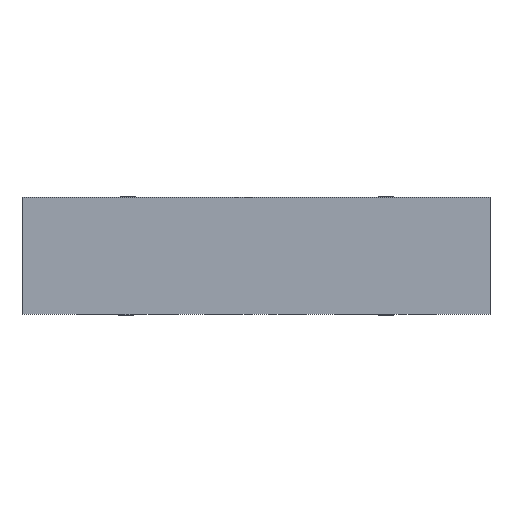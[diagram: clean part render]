
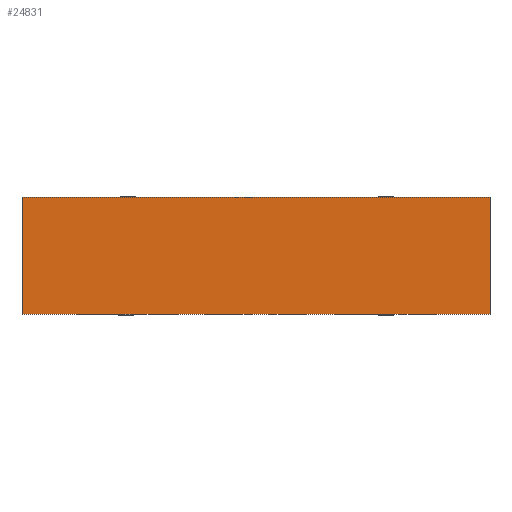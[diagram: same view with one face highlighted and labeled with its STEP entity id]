
A CAD part, left-side view. The second image highlights one B-rep face of the part: STEP entity #24831.
In plain terms, the highlighted planar face has unit normal (-1, 0, 0).
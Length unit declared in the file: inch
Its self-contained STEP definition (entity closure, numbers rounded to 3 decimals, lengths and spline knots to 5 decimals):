
#1872=FACE_OUTER_BOUND('',#3384,.T.);
#3384=EDGE_LOOP('',(#22416,#22417,#22418,#22419));
#4344=LINE('',#36316,#7126);
#5447=LINE('',#42344,#8229);
#6168=LINE('',#43872,#8950);
#6169=LINE('',#43873,#8951);
#7126=VECTOR('',#27373,4.);
#8229=VECTOR('',#29096,4.);
#8950=VECTOR('',#30567,1.);
#8951=VECTOR('',#30568,1.);
#10528=VERTEX_POINT('',#36312);
#10530=VERTEX_POINT('',#36315);
#11546=VERTEX_POINT('',#42337);
#11549=VERTEX_POINT('',#42342);
#13288=EDGE_CURVE('',#10530,#10528,#4344,.T.);
#14743=EDGE_CURVE('',#11549,#11546,#5447,.T.);
#15464=EDGE_CURVE('',#10528,#11546,#6168,.T.);
#15465=EDGE_CURVE('',#10530,#11549,#6169,.T.);
#22416=ORIENTED_EDGE('',*,*,#13288,.T.);
#22417=ORIENTED_EDGE('',*,*,#15464,.T.);
#22418=ORIENTED_EDGE('',*,*,#14743,.F.);
#22419=ORIENTED_EDGE('',*,*,#15465,.F.);
#23420=PLANE('',#25819);
#24831=ADVANCED_FACE('',(#1872),#23420,.T.);
#25819=AXIS2_PLACEMENT_3D('',#43871,#30565,#30566);
#27373=DIRECTION('',(0.,-1.,0.));
#29096=DIRECTION('',(0.,-1.,0.));
#30565=DIRECTION('center_axis',(-1.,0.,0.));
#30566=DIRECTION('ref_axis',(0.,-1.,0.));
#30567=DIRECTION('',(0.,0.,1.));
#30568=DIRECTION('',(0.,0.,1.));
#36312=CARTESIAN_POINT('',(-2.,-2.,0.));
#36315=CARTESIAN_POINT('',(-2.,2.,0.));
#36316=CARTESIAN_POINT('',(-2.,2.,0.));
#42337=CARTESIAN_POINT('',(-2.,-2.,1.));
#42342=CARTESIAN_POINT('',(-2.,2.,1.));
#42344=CARTESIAN_POINT('',(-2.,2.,1.));
#43871=CARTESIAN_POINT('Origin',(-2.,2.,0.));
#43872=CARTESIAN_POINT('',(-2.,-2.,0.));
#43873=CARTESIAN_POINT('',(-2.,2.,0.));
